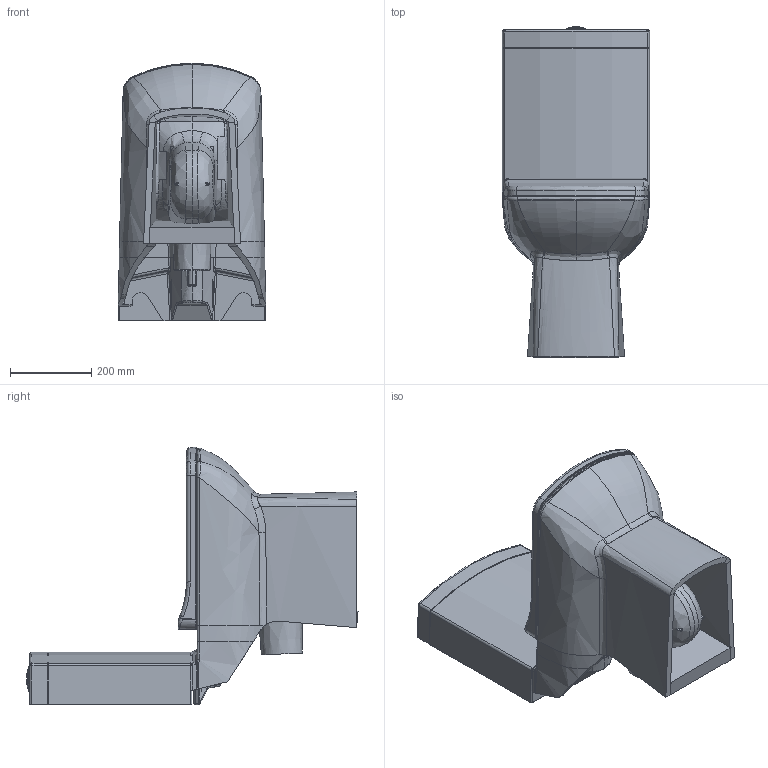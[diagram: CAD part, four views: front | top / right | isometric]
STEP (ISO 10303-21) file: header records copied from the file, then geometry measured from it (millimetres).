
FILE_DESCRIPTION (( 'STEP AP203' ), '1' );
FILE_NAME ('lr310.STEP', '2017-01-16T06:44:20', ( '' ), ( '' ), 'SwSTEP 2.0', 'SolidWorks 2016', '' );
FILE_SCHEMA (( 'CONFIG_CONTROL_DESIGN' ));
Length unit declared in the file: millimetre
Products named in the file (1): lr310
Bounding box: 364.16 x 817.82 x 633.72 mm (x, y, z)
Volume: 31083285.9 mm3; surface area: 2737846.8 mm2
Topology: 14 solids, 17 shells, 1211 faces, 3066 edges, 1867 vertices
Faces by surface type: bspline 765, cylinder 231, plane 182, cone 18, torus 9, sphere 6
Entity records: 224704 total; most frequent: CARTESIAN_POINT 202195, ORIENTED_EDGE 6060, EDGE_CURVE 3030, DIRECTION 2388, B_SPLINE_CURVE_WITH_KNOTS 1924, VERTEX_POINT 1867, EDGE_LOOP 1251, ADVANCED_FACE 1211
